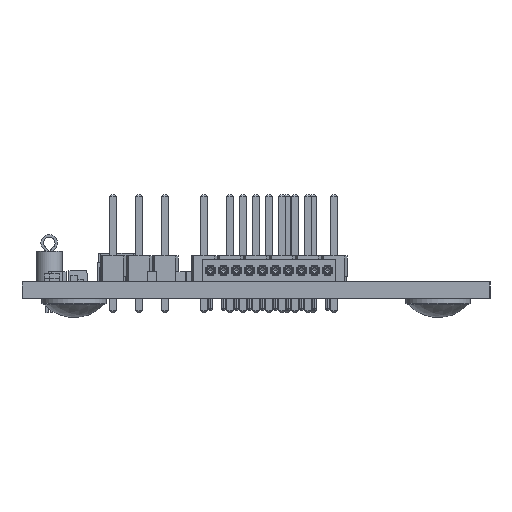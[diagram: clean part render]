
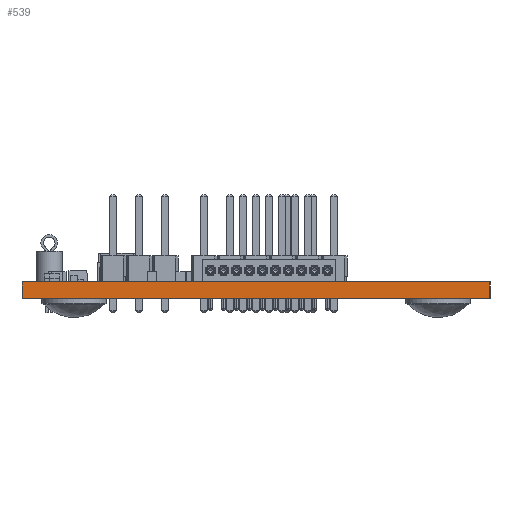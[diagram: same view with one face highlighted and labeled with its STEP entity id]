
A CAD part, left-side view. The second image highlights one B-rep face of the part: STEP entity #539.
In plain terms, the highlighted planar face has unit normal (-1, 0, 0).
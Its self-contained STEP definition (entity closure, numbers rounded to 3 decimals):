
#276 = EDGE_CURVE('',#277,#279,#281,.T.);
#277 = VERTEX_POINT('',#278);
#278 = CARTESIAN_POINT('',(0.,0.,0.));
#279 = VERTEX_POINT('',#280);
#280 = CARTESIAN_POINT('',(0.,0.,1.595));
#281 = SURFACE_CURVE('',#282,(#286,#298),.PCURVE_S1.);
#282 = LINE('',#283,#284);
#283 = CARTESIAN_POINT('',(0.,0.,0.));
#284 = VECTOR('',#285,1.);
#285 = DIRECTION('',(0.,0.,1.));
#286 = PCURVE('',#287,#292);
#287 = PLANE('',#288);
#288 = AXIS2_PLACEMENT_3D('',#289,#290,#291);
#289 = CARTESIAN_POINT('',(0.,0.,0.));
#290 = DIRECTION('',(0.,1.,0.));
#291 = DIRECTION('',(1.,0.,0.));
#292 = DEFINITIONAL_REPRESENTATION('',(#293),#297);
#293 = LINE('',#294,#295);
#294 = CARTESIAN_POINT('',(0.,0.));
#295 = VECTOR('',#296,1.);
#296 = DIRECTION('',(0.,-1.));
#297 = ( GEOMETRIC_REPRESENTATION_CONTEXT(2) 
PARAMETRIC_REPRESENTATION_CONTEXT() REPRESENTATION_CONTEXT('2D SPACE',''
  ) );
#298 = PCURVE('',#299,#304);
#299 = PLANE('',#300);
#300 = AXIS2_PLACEMENT_3D('',#301,#302,#303);
#301 = CARTESIAN_POINT('',(0.,45.72,0.));
#302 = DIRECTION('',(1.,0.,0.));
#303 = DIRECTION('',(0.,-1.,0.));
#304 = DEFINITIONAL_REPRESENTATION('',(#305),#309);
#305 = LINE('',#306,#307);
#306 = CARTESIAN_POINT('',(45.72,0.));
#307 = VECTOR('',#308,1.);
#308 = DIRECTION('',(0.,-1.));
#309 = ( GEOMETRIC_REPRESENTATION_CONTEXT(2) 
PARAMETRIC_REPRESENTATION_CONTEXT() REPRESENTATION_CONTEXT('2D SPACE',''
  ) );
#327 = PLANE('',#328);
#328 = AXIS2_PLACEMENT_3D('',#329,#330,#331);
#329 = CARTESIAN_POINT('',(0.,0.,1.595));
#330 = DIRECTION('',(0.,0.,-1.));
#331 = DIRECTION('',(-1.,0.,0.));
#381 = PLANE('',#382);
#382 = AXIS2_PLACEMENT_3D('',#383,#384,#385);
#383 = CARTESIAN_POINT('',(0.,0.,0.));
#384 = DIRECTION('',(0.,0.,-1.));
#385 = DIRECTION('',(-1.,0.,0.));
#436 = PLANE('',#437);
#437 = AXIS2_PLACEMENT_3D('',#438,#439,#440);
#438 = CARTESIAN_POINT('',(60.96,45.72,0.));
#439 = DIRECTION('',(0.,-1.,0.));
#440 = DIRECTION('',(-1.,0.,0.));
#474 = VERTEX_POINT('',#475);
#475 = CARTESIAN_POINT('',(0.,45.72,1.595));
#496 = EDGE_CURVE('',#497,#474,#499,.T.);
#497 = VERTEX_POINT('',#498);
#498 = CARTESIAN_POINT('',(0.,45.72,0.));
#499 = SURFACE_CURVE('',#500,(#504,#511),.PCURVE_S1.);
#500 = LINE('',#501,#502);
#501 = CARTESIAN_POINT('',(0.,45.72,0.));
#502 = VECTOR('',#503,1.);
#503 = DIRECTION('',(0.,0.,1.));
#504 = PCURVE('',#436,#505);
#505 = DEFINITIONAL_REPRESENTATION('',(#506),#510);
#506 = LINE('',#507,#508);
#507 = CARTESIAN_POINT('',(60.96,0.));
#508 = VECTOR('',#509,1.);
#509 = DIRECTION('',(0.,-1.));
#510 = ( GEOMETRIC_REPRESENTATION_CONTEXT(2) 
PARAMETRIC_REPRESENTATION_CONTEXT() REPRESENTATION_CONTEXT('2D SPACE',''
  ) );
#511 = PCURVE('',#299,#512);
#512 = DEFINITIONAL_REPRESENTATION('',(#513),#517);
#513 = LINE('',#514,#515);
#514 = CARTESIAN_POINT('',(0.,0.));
#515 = VECTOR('',#516,1.);
#516 = DIRECTION('',(0.,-1.));
#517 = ( GEOMETRIC_REPRESENTATION_CONTEXT(2) 
PARAMETRIC_REPRESENTATION_CONTEXT() REPRESENTATION_CONTEXT('2D SPACE',''
  ) );
#539 = ADVANCED_FACE('',(#540),#299,.F.);
#540 = FACE_BOUND('',#541,.F.);
#541 = EDGE_LOOP('',(#542,#543,#564,#565));
#542 = ORIENTED_EDGE('',*,*,#496,.T.);
#543 = ORIENTED_EDGE('',*,*,#544,.T.);
#544 = EDGE_CURVE('',#474,#279,#545,.T.);
#545 = SURFACE_CURVE('',#546,(#550,#557),.PCURVE_S1.);
#546 = LINE('',#547,#548);
#547 = CARTESIAN_POINT('',(0.,45.72,1.595));
#548 = VECTOR('',#549,1.);
#549 = DIRECTION('',(0.,-1.,0.));
#550 = PCURVE('',#299,#551);
#551 = DEFINITIONAL_REPRESENTATION('',(#552),#556);
#552 = LINE('',#553,#554);
#553 = CARTESIAN_POINT('',(0.,-1.595));
#554 = VECTOR('',#555,1.);
#555 = DIRECTION('',(1.,0.));
#556 = ( GEOMETRIC_REPRESENTATION_CONTEXT(2) 
PARAMETRIC_REPRESENTATION_CONTEXT() REPRESENTATION_CONTEXT('2D SPACE',''
  ) );
#557 = PCURVE('',#327,#558);
#558 = DEFINITIONAL_REPRESENTATION('',(#559),#563);
#559 = LINE('',#560,#561);
#560 = CARTESIAN_POINT('',(0.,45.72));
#561 = VECTOR('',#562,1.);
#562 = DIRECTION('',(0.,-1.));
#563 = ( GEOMETRIC_REPRESENTATION_CONTEXT(2) 
PARAMETRIC_REPRESENTATION_CONTEXT() REPRESENTATION_CONTEXT('2D SPACE',''
  ) );
#564 = ORIENTED_EDGE('',*,*,#276,.F.);
#565 = ORIENTED_EDGE('',*,*,#566,.F.);
#566 = EDGE_CURVE('',#497,#277,#567,.T.);
#567 = SURFACE_CURVE('',#568,(#572,#579),.PCURVE_S1.);
#568 = LINE('',#569,#570);
#569 = CARTESIAN_POINT('',(0.,45.72,0.));
#570 = VECTOR('',#571,1.);
#571 = DIRECTION('',(0.,-1.,0.));
#572 = PCURVE('',#299,#573);
#573 = DEFINITIONAL_REPRESENTATION('',(#574),#578);
#574 = LINE('',#575,#576);
#575 = CARTESIAN_POINT('',(0.,0.));
#576 = VECTOR('',#577,1.);
#577 = DIRECTION('',(1.,0.));
#578 = ( GEOMETRIC_REPRESENTATION_CONTEXT(2) 
PARAMETRIC_REPRESENTATION_CONTEXT() REPRESENTATION_CONTEXT('2D SPACE',''
  ) );
#579 = PCURVE('',#381,#580);
#580 = DEFINITIONAL_REPRESENTATION('',(#581),#585);
#581 = LINE('',#582,#583);
#582 = CARTESIAN_POINT('',(0.,45.72));
#583 = VECTOR('',#584,1.);
#584 = DIRECTION('',(0.,-1.));
#585 = ( GEOMETRIC_REPRESENTATION_CONTEXT(2) 
PARAMETRIC_REPRESENTATION_CONTEXT() REPRESENTATION_CONTEXT('2D SPACE',''
  ) );
